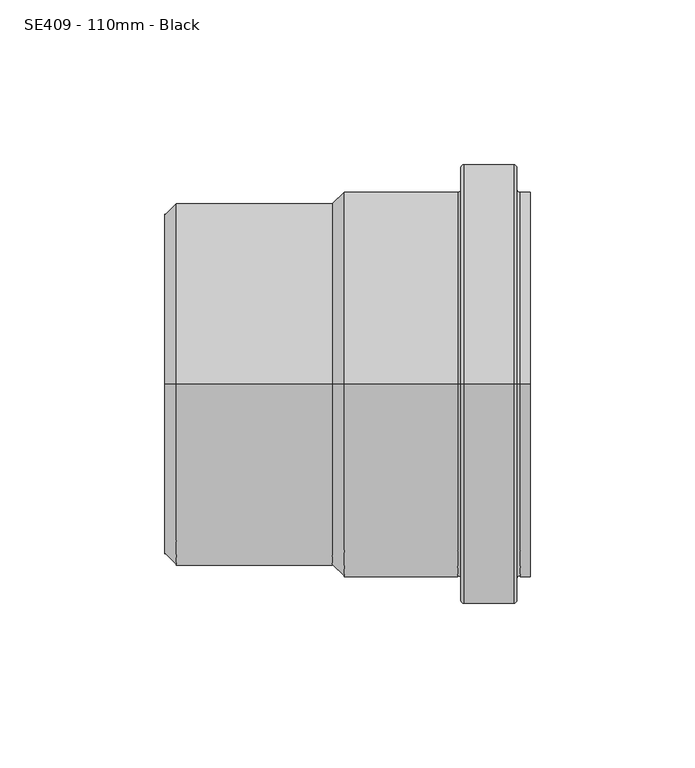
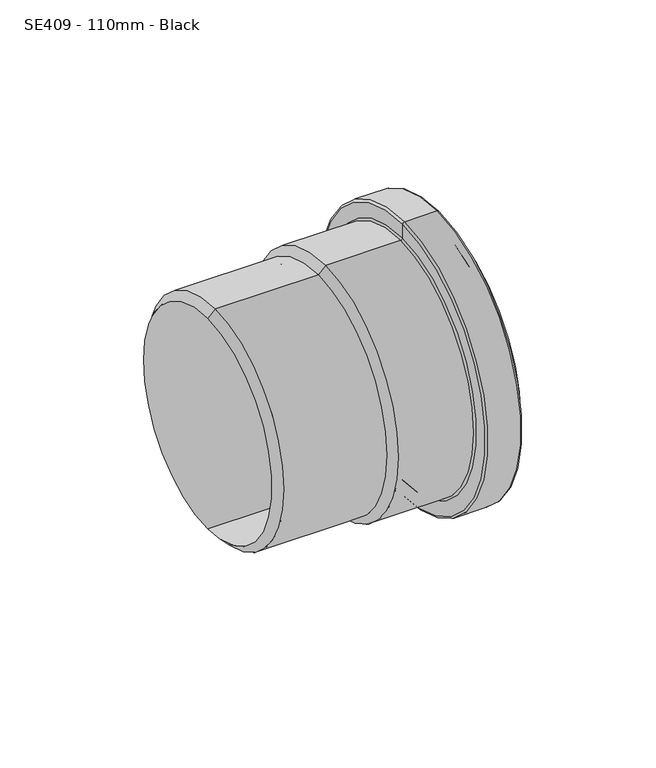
"""IFC4 building model written with IfcOpenShell, lengths in millimetres: pipe fitting geometry, MarleyPlumbingAndDrainage_PipeFitting_ExpansionCoupling : SE409 - 110mm - Black."""

from ifc_helpers import new_model, si_unit, point, frame, origin, place, context, project, spatial, polyline, circle_curve, ellipse_curve, trimmed, source, transform, mapped, element, save
from ifc_brep_helpers import plane_surface, cylinder_surface, revolved_surface, advanced_brep


def se409_110mm_black_ec458fc1(model_context):
    return source(origin(), model_context, "Body", "AdvancedBrep", [
        advanced_brep(
        [(-62.3253818, 0.0, -55.0), (-62.3253818, 0.0, 55.0), (-14.8253818, 0.0, 55.0), (-14.8253818, 0.0, -55.0), (45.1746182, 0.0, -55.0), (45.1746182, 0.0, 55.0), (-11.3253818, 0.0, 55.0), (-11.3253818, 0.0, -55.0), (45.1746182, 0.0, -58.5), (45.1746182, 0.0, 58.5), (-14.8253818, 0.0, 0.0), (-14.8253818, 0.0, 51.5), (-14.8253818, 0.0, -51.5), (-11.3253818, 0.0, 0.0), (42.1746182, 0.0, -58.5), (42.1746182, 0.0, 58.5), (41.1746182, 0.0, -66.0), (41.1746182, 0.0, 66.0), (41.1746182, 0.0, 59.5), (41.1746182, 0.0, -59.5), (25.1746182, 0.0, -67.0), (25.1746182, 0.0, 67.0), (40.1746182, 0.0, 67.0), (40.1746182, 0.0, -67.0), (24.1746182, 0.0, -59.5), (24.1746182, 0.0, 59.5), (24.1746182, 0.0, 66.0), (24.1746182, 0.0, -66.0), (-11.3253818, 0.0, -58.5), (-11.3253818, 0.0, 58.5), (23.1746182, 0.0, 58.5), (23.1746182, 0.0, -58.5), (-65.8253818, 0.0, -51.5), (-65.8253818, 0.0, 51.5)],
        [
            (0, 1, circle_curve(frame((-62.3253818, 0.0, 0.0), z_axis=(1.0, 0.0, 0.0), x_axis=(0.0, 0.0, 1.0)), 55.0)),
            (1, 2),
            (2, 3, circle_curve(frame((-14.8253818, 0.0, 0.0), z_axis=(-1.0, 0.0, 0.0), x_axis=(0.0, 0.0, 1.0)), 55.0)),
            (3, 0),
            (1, 0, circle_curve(frame((-62.3253818, 0.0, 0.0), z_axis=(1.0, 0.0, 0.0), x_axis=(0.0, 0.0, 1.0)), 55.0)),
            (3, 2, circle_curve(frame((-14.8253818, 0.0, 0.0), z_axis=(-1.0, 0.0, 0.0), x_axis=(0.0, 0.0, 1.0)), 55.0)),
            (4, 5, circle_curve(frame((45.1746182, 0.0, 0.0), z_axis=(1.0, 0.0, 0.0), x_axis=(0.0, 0.0, 1.0)), 55.0)),
            (5, 6),
            (6, 7, circle_curve(frame((-11.3253818, 0.0, 0.0), z_axis=(-1.0, 0.0, 0.0), x_axis=(0.0, 0.0, 1.0)), 55.0)),
            (7, 4),
            (5, 4, circle_curve(frame((45.1746182, 0.0, 0.0), z_axis=(1.0, 0.0, 0.0), x_axis=(0.0, 0.0, 1.0)), 55.0)),
            (7, 6, circle_curve(frame((-11.3253818, 0.0, 0.0), z_axis=(-1.0, 0.0, 0.0), x_axis=(0.0, 0.0, 1.0)), 55.0)),
            (8, 9, circle_curve(frame((45.1746182, 0.0, 0.0), z_axis=(1.0, 0.0, 0.0), x_axis=(0.0, 0.0, 1.0)), 58.5)),
            (9, 5),
            (4, 8),
            (9, 8, circle_curve(frame((45.1746182, 0.0, 0.0), z_axis=(1.0, 0.0, 0.0), x_axis=(0.0, 0.0, 1.0)), 58.5)),
            (10, 11),
            (11, 12, circle_curve(frame((-14.8253818, 0.0, 0.0), z_axis=(-1.0, 0.0, 0.0), x_axis=(0.0, 0.0, 1.0)), 51.5)),
            (12, 10),
            (12, 11, circle_curve(frame((-14.8253818, 0.0, 0.0), z_axis=(-1.0, 0.0, 0.0), x_axis=(0.0, 0.0, 1.0)), 51.5)),
            (6, 13),
            (13, 7),
            (14, 15, circle_curve(frame((42.1746182, 0.0, 0.0), z_axis=(1.0, 0.0, 0.0), x_axis=(0.0, 0.0, 1.0)), 58.5)),
            (15, 9),
            (8, 14),
            (15, 14, circle_curve(frame((42.1746182, 0.0, 0.0), z_axis=(1.0, 0.0, 0.0), x_axis=(0.0, 0.0, 1.0)), 58.5)),
            (16, 17, circle_curve(frame((41.1746182, 0.0, 0.0), z_axis=(1.0, 0.0, 0.0), x_axis=(0.0, 0.0, 1.0)), 66.0)),
            (17, 18),
            (18, 19, circle_curve(frame((41.1746182, 0.0, 0.0), z_axis=(-1.0, 0.0, 0.0), x_axis=(0.0, 0.0, 1.0)), 59.5)),
            (19, 16),
            (17, 16, circle_curve(frame((41.1746182, 0.0, 0.0), z_axis=(1.0, 0.0, 0.0), x_axis=(0.0, 0.0, 1.0)), 66.0)),
            (19, 18, circle_curve(frame((41.1746182, 0.0, 0.0), z_axis=(-1.0, 0.0, 0.0), x_axis=(0.0, 0.0, 1.0)), 59.5)),
            (20, 21, circle_curve(frame((25.1746182, 0.0, 0.0), z_axis=(1.0, 0.0, 0.0), x_axis=(0.0, 0.0, 1.0)), 67.0)),
            (21, 22),
            (22, 23, circle_curve(frame((40.1746182, 0.0, 0.0), z_axis=(-1.0, 0.0, 0.0), x_axis=(0.0, 0.0, 1.0)), 67.0)),
            (23, 20),
            (21, 20, circle_curve(frame((25.1746182, 0.0, 0.0), z_axis=(1.0, 0.0, 0.0), x_axis=(0.0, 0.0, 1.0)), 67.0)),
            (23, 22, circle_curve(frame((40.1746182, 0.0, 0.0), z_axis=(-1.0, 0.0, 0.0), x_axis=(0.0, 0.0, 1.0)), 67.0)),
            (24, 25, circle_curve(frame((24.1746182, 0.0, 0.0), z_axis=(1.0, 0.0, 0.0), x_axis=(0.0, 0.0, 1.0)), 59.5)),
            (25, 26),
            (26, 27, circle_curve(frame((24.1746182, 0.0, 0.0), z_axis=(-1.0, 0.0, 0.0), x_axis=(0.0, 0.0, 1.0)), 66.0)),
            (27, 24),
            (25, 24, circle_curve(frame((24.1746182, 0.0, 0.0), z_axis=(1.0, 0.0, 0.0), x_axis=(0.0, 0.0, 1.0)), 59.5)),
            (27, 26, circle_curve(frame((24.1746182, 0.0, 0.0), z_axis=(-1.0, 0.0, 0.0), x_axis=(0.0, 0.0, 1.0)), 66.0)),
            (28, 29, circle_curve(frame((-11.3253818, 0.0, 0.0), z_axis=(1.0, 0.0, 0.0), x_axis=(0.0, 0.0, 1.0)), 58.5)),
            (29, 30),
            (30, 31, circle_curve(frame((23.1746182, 0.0, 0.0), z_axis=(-1.0, 0.0, 0.0), x_axis=(0.0, 0.0, 1.0)), 58.5)),
            (31, 28),
            (29, 28, circle_curve(frame((-11.3253818, 0.0, 0.0), z_axis=(1.0, 0.0, 0.0), x_axis=(0.0, 0.0, 1.0)), 58.5)),
            (31, 30, circle_curve(frame((23.1746182, 0.0, 0.0), z_axis=(-1.0, 0.0, 0.0), x_axis=(0.0, 0.0, 1.0)), 58.5)),
            (18, 15, circle_curve(frame((42.1746182, 0.0, 59.5), z_axis=(0.0, -1.0, 0.0), x_axis=(1.0, 0.0, 0.0)), 1.0)),
            (14, 19, circle_curve(frame((42.1746182, 0.0, -59.5), z_axis=(0.0, -1.0, 0.0), x_axis=(1.0, 0.0, 0.0)), 1.0)),
            (22, 17, circle_curve(frame((40.1746182, 0.0, 66.0), z_axis=(0.0, 1.0, 0.0), x_axis=(1.0, 0.0, 0.0)), 1.0)),
            (16, 23, circle_curve(frame((40.1746182, 0.0, -66.0), z_axis=(0.0, 1.0, 0.0), x_axis=(1.0, 0.0, 0.0)), 1.0)),
            (26, 21, circle_curve(frame((25.1746182, 0.0, 66.0), z_axis=(0.0, 1.0, 0.0), x_axis=(1.0, 0.0, 0.0)), 1.0)),
            (20, 27, circle_curve(frame((25.1746182, 0.0, -66.0), z_axis=(0.0, 1.0, 0.0), x_axis=(1.0, 0.0, 0.0)), 1.0)),
            (30, 25, circle_curve(frame((23.1746182, 0.0, 59.5), z_axis=(0.0, -1.0, 0.0), x_axis=(1.0, 0.0, 0.0)), 1.0)),
            (24, 31, circle_curve(frame((23.1746182, 0.0, -59.5), z_axis=(0.0, -1.0, 0.0), x_axis=(1.0, 0.0, 0.0)), 1.0)),
            (32, 33, circle_curve(frame((-65.8253818, 0.0, 0.0), z_axis=(1.0, 0.0, 0.0), x_axis=(0.0, 0.0, 1.0)), 51.5)),
            (33, 1),
            (0, 32),
            (33, 32, circle_curve(frame((-65.8253818, 0.0, 0.0), z_axis=(1.0, 0.0, 0.0), x_axis=(0.0, 0.0, 1.0)), 51.5)),
            (11, 33),
            (32, 12),
            (2, 29),
            (28, 3),
        ],
        [
            cylinder_surface(frame((-1203.7325039, 0.0, 0.0), z_axis=(-1.0, 0.0, 0.0), x_axis=(0.0, 0.0, 1.0)), 55.0),
            revolved_surface(polyline([(-11.32538180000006, 0.0, 55.0), (45.17461819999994, 0.0, 55.0)]), (-1203.7325039, 0.0, 0.0), (-1.0, 0.0, 0.0)),
            plane_surface(frame((45.1746182, 0.0, 0.0), z_axis=(1.0, 0.0, 0.0), x_axis=(0.0, 0.0, 1.0))),
            plane_surface(frame((-14.8253818, 0.0, 0.0), z_axis=(-1.0, 0.0, 0.0), x_axis=(0.0, 0.0, 1.0))),
            plane_surface(frame((-11.3253818, 0.0, 0.0), z_axis=(1.0, 0.0, 0.0), x_axis=(0.0, 0.0, 1.0))),
            cylinder_surface(frame((-1203.7325039, 0.0, 0.0), z_axis=(-1.0, 0.0, 0.0), x_axis=(0.0, 0.0, 1.0)), 58.5),
            plane_surface(frame((41.1746182, 0.0, 0.0), z_axis=(1.0, 0.0, 0.0), x_axis=(0.0, 0.0, 1.0))),
            cylinder_surface(frame((-1203.7325039, 0.0, 0.0), z_axis=(-1.0, 0.0, 0.0), x_axis=(0.0, 0.0, 1.0)), 67.0),
            plane_surface(frame((24.1746182, 0.0, 0.0), z_axis=(-1.0, 0.0, 0.0), x_axis=(0.0, 0.0, 1.0))),
            revolved_surface(trimmed(ellipse_curve(frame((42.1746182, 0.0, 59.5), z_axis=(0.0, 1.0, 0.0), x_axis=(1.0, 0.0, 0.0)), 1.0, 1.0), [point((42.1746182, 0.0, 58.5))], [point((41.1746182, 0.0, 59.5))], True, "CARTESIAN"), (-1203.7325039, 0.0, 0.0), (-1.0, 0.0, 0.0)),
            revolved_surface(trimmed(ellipse_curve(frame((40.1746182, 0.0, 66.0), z_axis=(0.0, -1.0, 0.0), x_axis=(1.0, 0.0, 0.0)), 1.0, 1.0), [point((41.1746182, 0.0, 66.0))], [point((40.1746182, 0.0, 67.0))], True, "CARTESIAN"), (-1203.7325039, 0.0, 0.0), (-1.0, 0.0, 0.0)),
            revolved_surface(trimmed(ellipse_curve(frame((25.1746182, 0.0, 66.0), z_axis=(0.0, -1.0, 0.0), x_axis=(1.0, 0.0, 0.0)), 1.0, 1.0), [point((25.1746182, 0.0, 67.0))], [point((24.1746182, 0.0, 66.0))], True, "CARTESIAN"), (-1203.7325039, 0.0, 0.0), (-1.0, 0.0, 0.0)),
            revolved_surface(trimmed(ellipse_curve(frame((23.1746182, 0.0, 59.5), z_axis=(0.0, 1.0, 0.0), x_axis=(1.0, 0.0, 0.0)), 1.0, 1.0), [point((24.1746182, 0.0, 59.5))], [point((23.1746182, 0.0, 58.5))], True, "CARTESIAN"), (-1203.7325039, 0.0, 0.0), (-1.0, 0.0, 0.0)),
            revolved_surface(polyline([(-62.3253818, 0.0, 55.0), (-65.8253818, 0.0, 51.5)]), (-1203.7325039, 0.0, 0.0), (-1.0, 0.0, 0.0)),
            revolved_surface(polyline([(-65.82538180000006, 0.0, 51.5), (-14.82538180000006, 0.0, 51.5)]), (-1203.7325039, 0.0, 0.0), (-1.0, 0.0, 0.0)),
            revolved_surface(polyline([(-11.3253818, 0.0, 58.5), (-14.8253818, 0.0, 55.0)]), (-1203.7325039, 0.0, 0.0), (-1.0, 0.0, 0.0)),
        ],
        [
            (0, [[1, 2, 3, 4]]),
            (0, [[5, -4, 6, -2]]),
            (1, [[7, 8, 9, 10]]),
            (1, [[11, -10, 12, -8]]),
            (2, [[13, 14, -7, 15]]),
            (2, [[16, -15, -11, -14]]),
            (3, [[17, 18, 19]]),
            (3, [[-19, 20, -17]]),
            (4, [[-9, 21, 22]]),
            (4, [[-12, -22, -21]]),
            (5, [[23, 24, -13, 25]]),
            (5, [[26, -25, -16, -24]]),
            (6, [[27, 28, 29, 30]]),
            (6, [[31, -30, 32, -28]]),
            (7, [[33, 34, 35, 36]]),
            (7, [[37, -36, 38, -34]]),
            (8, [[39, 40, 41, 42]]),
            (8, [[43, -42, 44, -40]]),
            (5, [[45, 46, 47, 48]]),
            (5, [[49, -48, 50, -46]]),
            (9, [[-29, 51, -23, 52]]),
            (9, [[-32, -52, -26, -51]]),
            (10, [[-35, 53, -27, 54]]),
            (10, [[-38, -54, -31, -53]]),
            (11, [[-41, 55, -33, 56]]),
            (11, [[-44, -56, -37, -55]]),
            (12, [[-47, 57, -39, 58]]),
            (12, [[-50, -58, -43, -57]]),
            (13, [[59, 60, -1, 61]]),
            (13, [[62, -61, -5, -60]]),
            (14, [[-18, 63, -59, 64]]),
            (14, [[-20, -64, -62, -63]]),
            (15, [[-3, 65, -45, 66]]),
            (15, [[-6, -66, -49, -65]]),
        ],
    ),
    ])


if __name__ == "__main__":
    model = new_model("IFC4")
    model_context = context("Model", 3, world=origin())
    ifc_project = project(units=[si_unit("LENGTHUNIT", "METRE", prefix="MILLI")], contexts=[model_context])
    site = spatial("IfcSite", under=ifc_project)
    building = spatial("IfcBuilding", under=site)
    placement = place(None, origin())
    se409_110mm_black_shape = se409_110mm_black_ec458fc1(model_context)
    element("IfcPipeFitting", 1, ObjectType="MarleyPlumbingAndDrainage_PipeFitting_ExpansionCoupling : SE409 - 110mm - Black", at=placement, inside=building, context=model_context, shape_type="MappedRepresentation", body=[
        mapped(se409_110mm_black_shape, transform((0.0, 0.0, 0.0), x_axis=(1.0, 0.0, 0.0), y_axis=(0.0, 1.0, 0.0), z_axis=(0.0, 0.0, 1.0))),
    ])
    save(model, "model.ifc")
